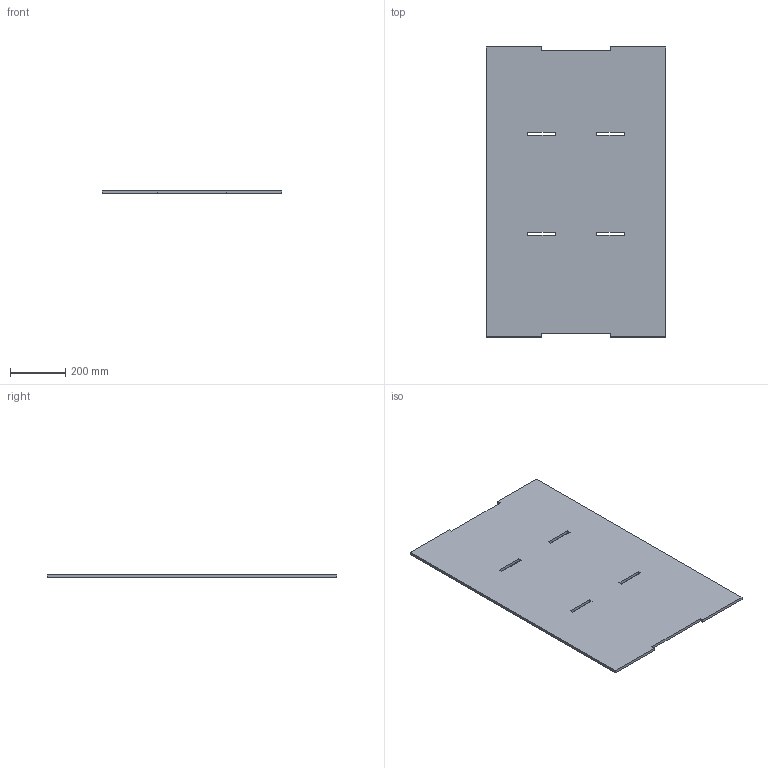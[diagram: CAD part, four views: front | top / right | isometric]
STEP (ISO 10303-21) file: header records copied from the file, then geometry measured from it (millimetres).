
FILE_DESCRIPTION (( 'STEP AP214' ), '1' );
FILE_NAME ('Right Side.STEP', '2024-10-17T16:02:11', ( '' ), ( '' ), 'SwSTEP 2.0', 'SolidWorks 2020', '' );
FILE_SCHEMA (( 'AUTOMOTIVE_DESIGN' ));
Length unit declared in the file: millimetre
Products named in the file (1): Right Side
Bounding box: 650 x 1050 x 10 mm (x, y, z)
Volume: 6717000 mm3; surface area: 1386840 mm2
Topology: 1 solids, 1 shells, 30 faces, 84 edges, 56 vertices
Faces by surface type: plane 30
Entity records: 998 total; most frequent: CARTESIAN_POINT 171, ORIENTED_EDGE 168, DIRECTION 146, LINE 84, EDGE_CURVE 84, VECTOR 84, VERTEX_POINT 56, EDGE_LOOP 38
